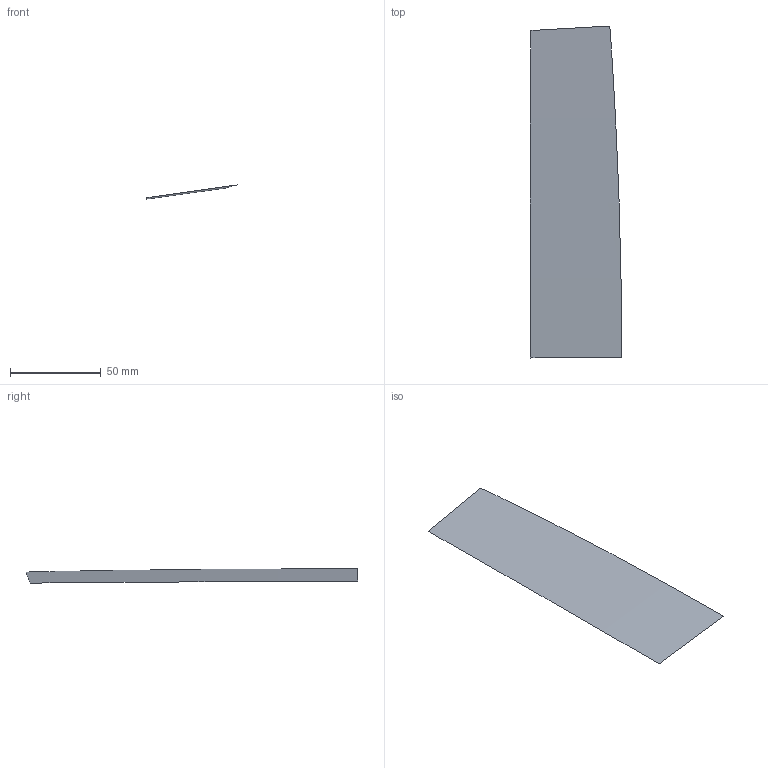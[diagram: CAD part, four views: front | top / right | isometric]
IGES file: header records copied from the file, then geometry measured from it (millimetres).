
Start section: START RECORD GO HERE
Global section: file name: x28.igs; native system: IBM CATIA IGES - CATIA SOLUTIONS V4RELEASE 1.9 REFRESH 01; preprocessor: CATIA SOLUTIONS V4RELEASE 1.9 REFRESH 01; author: cky; date: 990510.133752; units: millimetre
Bounding box: 50.33 x 182.91 x 7.86 mm (x, y, z)
Surface area: 8447.4 mm2 (no closed solid volume)
Topology: 0 solids, 0 shells, 1 faces, 24 edges, 24 vertices
Faces by surface type: extrusion 1
